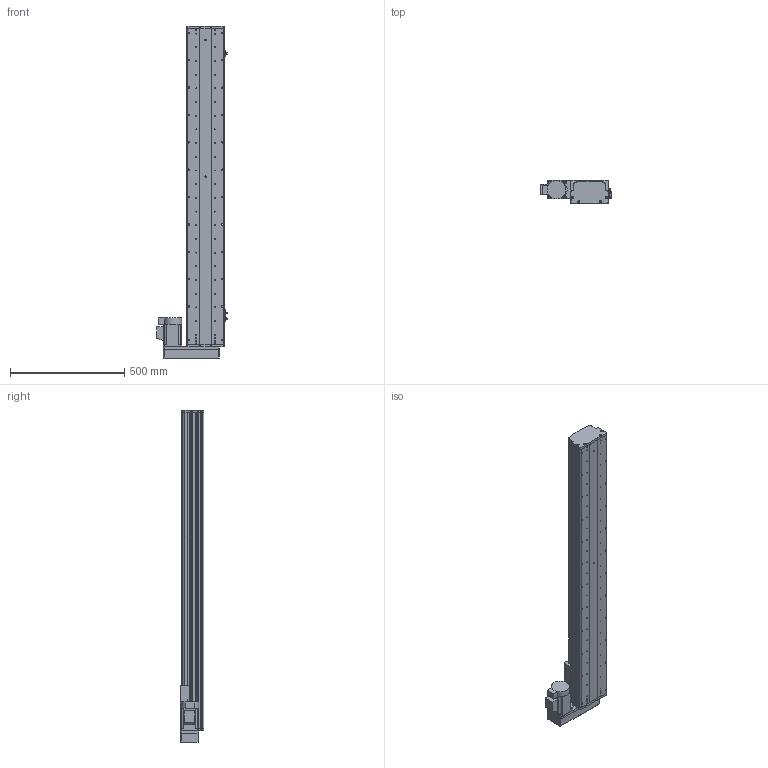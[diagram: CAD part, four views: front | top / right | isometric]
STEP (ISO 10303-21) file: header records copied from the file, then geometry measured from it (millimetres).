
FILE_DESCRIPTION (( 'STEP AP214' ), '1' );
FILE_NAME ('KSD165S-S1150-MR-CM.STEP', '2017-10-18T01:05:48', ( '微软用户' ), ( '微软中国' ), 'SwSTEP 2.0', 'SolidWorks 2014', '' );
FILE_SCHEMA (( 'AUTOMOTIVE_DESIGN' ));
Length unit declared in the file: millimetre
Products named in the file (16): 覜茼え68遵圉猾敕; U倰嫖萇假蚾璃; U倰嫖萇EEㄜSX672; KSD165耀郪-綴傷啣1; KSD165模组-丝杆滑动座-最新版; KSD165S-S1150-MR-CM; KSD165模组-丝杆上下左右折前端板; 拸秶雄ん750W侜督萇儂; HTPA26S5M250-A-H8 750W萇儂蚚; HTPA26S5M250-A-H8丝杆用(内径14）; 165宽模组马达安装板连板左右折丝杆; 165宽模组保护罩左右折; KSD165模组-防尘盖1-1150行程-最新版; KSD165模组底板-1150行程-最新; KSD165耀郪-佪裝-滅袉菜-3 -; KSD165耀郪-佪裝-滅袉菜-1
Assembly tree (19 placements, depth 2):
  KSD165S-S1150-MR-CM
    KSD165模组-丝杆滑动座-最新版
    KSD165耀郪-綴傷啣1
    U倰嫖萇EEㄜSX672  x3
    U倰嫖萇假蚾璃  x3
    覜茼え68遵圉猾敕
    KSD165耀郪-佪裝-滅袉菜-1
    KSD165耀郪-佪裝-滅袉菜-3 -
    KSD165模组底板-1150行程-最新
    KSD165模组-防尘盖1-1150行程-最新版
    165宽模组保护罩左右折
    165宽模组马达安装板连板左右折丝杆
    HTPA26S5M250-A-H8丝杆用(内径14）
    HTPA26S5M250-A-H8 750W萇儂蚚
    拸秶雄ん750W侜督萇儂
    KSD165模组-丝杆上下左右折前端板
Bounding box: 311.2 x 104 x 1455.5 mm (x, y, z)
Volume: 8547496.1 mm3; surface area: 1987884 mm2
Topology: 20 solids, 20 shells, 1885 faces, 5360 edges, 3507 vertices
Faces by surface type: cylinder 1235, plane 549, cone 101
Entity records: 62515 total; most frequent: CARTESIAN_POINT 13027, DIRECTION 10043, ORIENTED_EDGE 9408, EDGE_CURVE 4704, AXIS2_PLACEMENT_3D 3947, VERTEX_POINT 3099, CIRCLE 2260, VECTOR 2149
